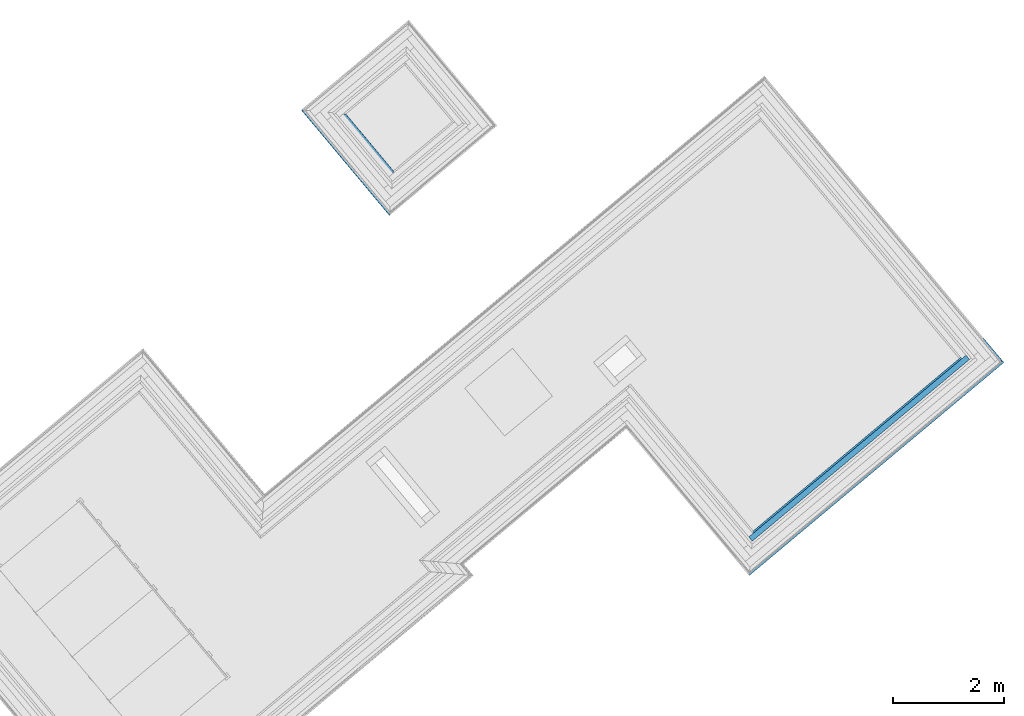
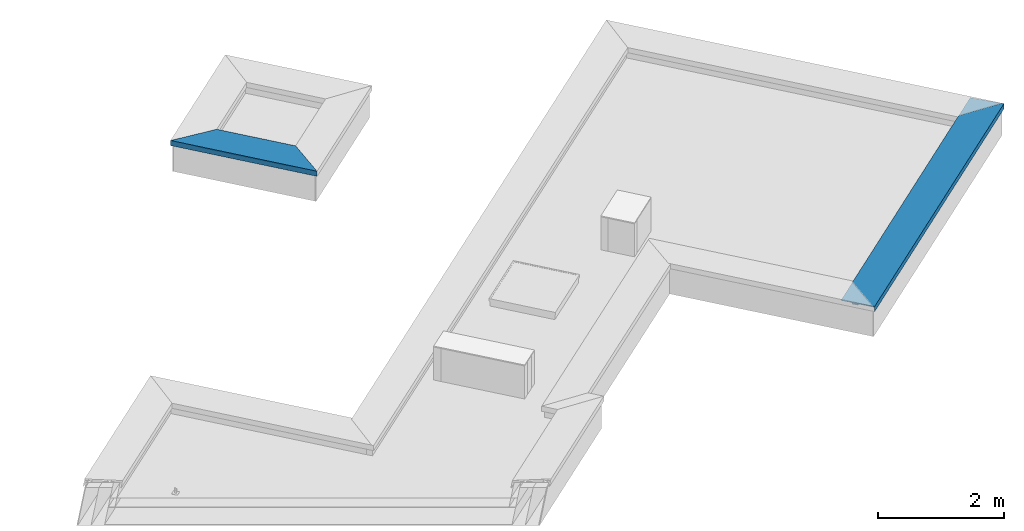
# One storey, part 8 of 13: 5 building element parts, 2 elements without a shape of their own.
"""IFC4 building model written with IfcOpenShell, lengths in metres."""

from ifc_helpers import new_model, entity, si_unit, converted_unit, derived_unit, direction, frame, origin_with_axes, place, context, subcontext, project, spatial, polygons, material, type_object, element, aggregate, save


model = new_model("IFC4")

# Units and contexts
model_context = context("Model", 3, precision=1e-05, world=origin_with_axes(), true_north=direction((0.0, 1.0)))
body_context = subcontext(model_context, "Body", "Model", "MODEL_VIEW")
ifc_project = project(units=[si_unit("LENGTHUNIT", "METRE"), si_unit("AREAUNIT", "SQUARE_METRE"), si_unit("VOLUMEUNIT", "CUBIC_METRE"), converted_unit("PLANEANGLEUNIT", "DEGREE", entity("IfcPlaneAngleMeasure", 0.0174532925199), si_unit("PLANEANGLEUNIT", "RADIAN"), dimensions=[0, 0, 0, 0, 0, 0, 0]), converted_unit("TIMEUNIT", "Year", entity("IfcTimeMeasure", 31556926.0), si_unit("TIMEUNIT", "SECOND"), dimensions=[0, 0, 1, 0, 0, 0, 0]), si_unit("MASSUNIT", "GRAM", prefix="KILO"), si_unit("THERMODYNAMICTEMPERATUREUNIT", "DEGREE_CELSIUS"), si_unit("LUMINOUSINTENSITYUNIT", "LUMEN"), si_unit("ENERGYUNIT", "JOULE", prefix="MEGA"), derived_unit("THERMALCONDUCTANCEUNIT", [(si_unit("POWERUNIT", "WATT"), 1), (si_unit("LENGTHUNIT", "METRE"), -1), (si_unit("THERMODYNAMICTEMPERATUREUNIT", "KELVIN"), -1)]), derived_unit("SPECIFICHEATCAPACITYUNIT", [(si_unit("ENERGYUNIT", "JOULE"), 1), (si_unit("MASSUNIT", "GRAM", prefix="KILO"), -1), (si_unit("THERMODYNAMICTEMPERATUREUNIT", "KELVIN"), -1)]), derived_unit("MASSDENSITYUNIT", [(si_unit("MASSUNIT", "GRAM", prefix="KILO"), 1), (si_unit("VOLUMEUNIT", "CUBIC_METRE"), -1)])], contexts=[model_context])

# Site, building, storey
site_placement = place(None, frame((-0.00153261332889, -0.00661245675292, 0.0), z_axis=(0.0, 0.0, 1.0), x_axis=(1.0, 0.0, 0.0)))
site = spatial("IfcSite", under=ifc_project, at=site_placement, Name="Gelände", CompositionType="ELEMENT")
building_placement = place(site_placement, origin_with_axes())
building = spatial("IfcBuilding", under=site, at=building_placement, Name="Gebäude", CompositionType="ELEMENT")
storey_placement = place(building_placement, frame((0.0, 0.0, 11.84), z_axis=(0.0, 0.0, 1.0), x_axis=(1.0, 0.0, 0.0)))
storey = spatial("IfcBuildingStorey", under=building, at=storey_placement, Name="DA", CompositionType="ELEMENT", Elevation=11.84)

# Wall, building element parts
wall_type_1 = type_object("IfcWallType", Name="Bauteil - Attika 574 x 610", PredefinedType="NOTDEFINED")
wall_1_placement = place(storey_placement, frame((1.33818690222, 24.5040825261, 0.96), z_axis=(0.0, 0.0, 1.0), x_axis=(-0.641161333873, 0.767406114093, 0.0)))
wall_1 = element("IfcWall", 1, at=wall_1_placement, inside=storey, type_object=wall_type_1, Name="Wand-002", PredefinedType="NOTDEFINED")
ifc_material_1 = material(Name="Holzwerkstoff")
building_element_part_1_placement = place(wall_1_placement, origin_with_axes())
building_element_part_1 = element("IfcBuildingElementPart", 2, at=building_element_part_1_placement, material=ifc_material_1, Name="Holzwerkstoff", PredefinedType="NOTDEFINED", context=body_context, shape_type="Tessellation", body=[
    polygons([(1.6709618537, -0.330207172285, 0.573880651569), (1.67116904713, -0.329999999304, 0.567947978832), (1.67095117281, -0.160110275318, 0.573880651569), (1.67088855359, -0.330280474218, 0.575979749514), (1.67060794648, -0.330561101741, 0.584015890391), (1.67053495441, -0.330634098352, 0.586106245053), (1.67047097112, -0.330698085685, 0.587938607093), (0.330719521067, -0.330698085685, 0.587938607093), (0.33065552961, -0.330634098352, 0.586106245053), (0.330582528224, -0.330561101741, 0.584015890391), (0.330301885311, -0.330280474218, 0.575979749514), (0.330228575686, -0.330207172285, 0.573880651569), (0.33002138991, -0.329999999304, 0.567947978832), (0.330217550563, -0.160110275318, 0.573880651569), (1.67087409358, -0.100000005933, 0.575979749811), (1.67057901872, 0.130124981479, 0.584015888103), (1.67050226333, 0.189984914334, 0.586106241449), (1.67043813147, 0.239999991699, 0.587852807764), (1.67043513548, 0.2399969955, 0.587938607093), (2.24040977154, 0.239276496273, 0.608570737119), (-0.239291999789, 0.239276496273, 0.608570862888), (0.33068732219, -0.330698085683, 0.587938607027), (0.330682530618, 0.2399969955, 0.587938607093), (0.330679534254, 0.239999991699, 0.587852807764), (0.330621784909, 0.189985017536, 0.586106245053), (0.330552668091, 0.130124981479, 0.584015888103), (0.330286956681, -0.100000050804, 0.575979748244)], [[[1, 2, 3]], [[2, 1, 4, 5, 6, 7, 8, 9, 10, 11, 12, 13]], [[3, 2, 13, 14]], [[3, 15, 4, 1]], [[15, 16, 5, 4]], [[16, 17, 6, 5]], [[17, 18, 19, 7, 6]], [[7, 20, 21, 22, 8]], [[23, 24, 25, 9, 8]], [[25, 26, 10, 9]], [[26, 27, 11, 10]], [[27, 14, 12, 11]], [[14, 13, 12]], [[15, 3, 14, 27]], [[16, 15, 27, 26]], [[17, 16, 26, 25]], [[18, 17, 25, 24]], [[19, 18, 24, 23, 21, 20]], [[7, 19, 20]], [[21, 23, 8, 22]]], closed=True),
])
ifc_material_2 = material(Name="Stahl")
building_element_part_2_placement = place(wall_1_placement, origin_with_axes())
building_element_part_2 = element("IfcBuildingElementPart", 3, at=building_element_part_2_placement, material=ifc_material_2, Name="Stahl", PredefinedType="NOTDEFINED", context=body_context, shape_type="Tessellation", body=[
    polygons([(2.24127957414, 0.241500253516, 0.51136132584), (2.24128008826, 0.241500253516, 0.519224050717), (2.24128017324, 0.240146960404, 0.519224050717), (2.24127965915, 0.240146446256, 0.51136132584), (2.23936501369, 0.241500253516, 0.511361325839), (2.24071881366, 0.241500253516, 0.510007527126), (-0.239601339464, 0.241500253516, 0.510007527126), (-0.238247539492, 0.241500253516, 0.511361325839), (-0.24016209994, 0.241500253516, 0.51136132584), (-0.240162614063, 0.241500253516, 0.519224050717), (-0.240165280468, 0.241500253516, 0.560000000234), (-0.240165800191, 0.241500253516, 0.567947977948), (-0.240166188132, 0.241500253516, 0.573880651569), (-0.240166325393, 0.241500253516, 0.575979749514), (-0.240166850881, 0.241500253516, 0.584015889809), (-0.24016698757, 0.241500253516, 0.586106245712), (-0.240167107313, 0.241500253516, 0.587937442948), (-0.240168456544, 0.241500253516, 0.608570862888), (-0.240168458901, 0.241500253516, 0.608602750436), (-0.202746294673, 0.241500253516, 0.608602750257), (-0.241515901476, 0.241500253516, 0.610006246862), (2.24263338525, 0.241500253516, 0.610006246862), (2.20386376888, 0.241500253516, 0.608602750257), (2.2412859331, 0.241500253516, 0.608602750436), (2.24128593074, 0.241500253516, 0.608570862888), (2.24128458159, 0.241500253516, 0.587938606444), (2.24128446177, 0.241500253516, 0.586106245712), (2.24128432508, 0.241500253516, 0.584015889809), (2.24128379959, 0.241500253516, 0.575979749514), (2.24128366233, 0.241500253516, 0.573880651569), (2.24128327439, 0.241500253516, 0.567947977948), (2.24128275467, 0.241500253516, 0.560000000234), (2.24128283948, 0.240149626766, 0.560000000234), (2.2393650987, 0.240146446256, 0.511361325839), (2.24128335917, 0.240150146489, 0.567947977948), (2.24128374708, 0.24015053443, 0.573880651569), (2.24128388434, 0.240150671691, 0.575979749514), (2.24128440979, 0.240151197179, 0.584015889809), (2.24128454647, 0.240151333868, 0.586106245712), (2.24128466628, 0.240151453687, 0.587938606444), (2.24128601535, 0.240152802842, 0.608570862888), (2.24128601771, 0.240152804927, 0.608602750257), (2.20386385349, 0.240152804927, 0.608602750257), (-0.202746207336, 0.240152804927, 0.608602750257), (-0.240168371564, 0.240152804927, 0.608602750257), (-0.240168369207, 0.240152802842, 0.608570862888), (-0.240167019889, 0.240151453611, 0.587937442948), (-0.240166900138, 0.240151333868, 0.586106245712), (-0.24016676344, 0.240151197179, 0.584015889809), (-0.240166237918, 0.240150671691, 0.575979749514), (-0.240166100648, 0.24015053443, 0.573880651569), (-0.240165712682, 0.240150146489, 0.567947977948), (-0.240165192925, 0.240149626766, 0.560000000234), (-0.240162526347, 0.240146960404, 0.519224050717), (-0.240162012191, 0.240146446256, 0.51136132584), (-0.238247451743, 0.240146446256, 0.511361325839), (2.23936521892, 0.238231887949, 0.51136132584), (2.24167616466, 0.240542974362, 0.509050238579), (-0.240558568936, 0.240542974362, 0.509050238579), (-0.238247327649, 0.238231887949, 0.51136132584), (-0.202743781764, 0.202730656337, 0.608602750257), (2.20298541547, 0.201849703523, 0.608570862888), (2.20386620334, 0.202730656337, 0.608602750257), (-0.201862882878, 0.201849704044, 0.608570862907), (0.332073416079, -0.332051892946, 0.589243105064), (1.66911724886, -0.3320517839, 0.589243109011), (2.20298306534, 0.239276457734, 0.608570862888), (-0.201865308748, 0.239276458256, 0.608570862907), (2.23250704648, 0.233287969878, 0.518219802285), (-0.231388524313, 0.233287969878, 0.518219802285), (-0.232298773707, 0.232283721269, 0.519224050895), (2.23341743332, 0.232283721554, 0.51922405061), (2.2325071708, 0.231373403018, 0.518219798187), (-0.231388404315, 0.231373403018, 0.518219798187), (0.332070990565, -0.29463062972, 0.589243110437), (0.332073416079, -0.332051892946, 0.587937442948), (0.332073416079, -0.332051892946, 0.586106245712), (0.332073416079, -0.332051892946, 0.584015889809), (0.332073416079, -0.332051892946, 0.575979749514), (0.332073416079, -0.332051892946, 0.573880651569), (0.332073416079, -0.332051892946, 0.567947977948), (0.332073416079, -0.332051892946, 0.560000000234), (0.332073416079, -0.332051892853, 0.519224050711), (0.332073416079, -0.332051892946, 0.51136132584), (0.332073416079, -0.332051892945, 0.509050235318), (0.332073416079, -0.332051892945, 0.499999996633), (0.332073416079, -0.332051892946, 0.498822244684), (0.332073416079, -0.332051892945, 0.491006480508), (0.332073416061, -0.332051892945, 0.489652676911), (1.66911724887, -0.332051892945, 0.489652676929), (1.66911724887, -0.332051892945, 0.491006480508), (1.66911724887, -0.332051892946, 0.498822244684), (1.66911724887, -0.332051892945, 0.499999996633), (1.66911724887, -0.332051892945, 0.509050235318), (1.66911724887, -0.332051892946, 0.51136132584), (1.66911724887, -0.332051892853, 0.519224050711), (1.66911724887, -0.332051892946, 0.560000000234), (1.66911724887, -0.332051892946, 0.567947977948), (1.66911724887, -0.332051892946, 0.573880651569), (1.66911724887, -0.332051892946, 0.575979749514), (1.66911724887, -0.332051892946, 0.584015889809), (1.66911724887, -0.332051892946, 0.586106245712), (1.66911724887, -0.332051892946, 0.587938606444), (1.66911489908, -0.294630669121, 0.589243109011), (1.66911716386, -0.330698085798, 0.587937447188), (0.33207332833, -0.330698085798, 0.587937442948), (1.66911716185, -0.330666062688, 0.587938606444), (0.33207332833, -0.330698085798, 0.586106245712), (0.33207332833, -0.330698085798, 0.584015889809), (0.33207332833, -0.330698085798, 0.575979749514), (0.33207332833, -0.330698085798, 0.573880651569), (0.33207332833, -0.330698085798, 0.567947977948), (0.33207332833, -0.330698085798, 0.560000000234), (0.33207332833, -0.330698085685, 0.519224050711), (0.33207332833, -0.330698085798, 0.51136132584), (0.33207332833, -0.330698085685, 0.509050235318), (0.33207332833, -0.330698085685, 0.499999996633), (0.33207332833, -0.330698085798, 0.498822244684), (0.33207332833, -0.330698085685, 0.49100648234), (0.332073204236, -0.32878353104, 0.491006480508), (0.332073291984, -0.33013733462, 0.489652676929), (0.331116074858, -0.331094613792, 0.488695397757), (1.67007446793, -0.331094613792, 0.488695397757), (1.66911712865, -0.33013733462, 0.489652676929), (1.66911704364, -0.32878353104, 0.491006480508), (1.66911716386, -0.330698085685, 0.49100648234), (1.66911716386, -0.330698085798, 0.498822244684), (1.66911716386, -0.330698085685, 0.499999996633), (1.66911716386, -0.330698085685, 0.509050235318), (1.66911716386, -0.330698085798, 0.51136132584), (1.66911716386, -0.330698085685, 0.519224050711), (1.66911716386, -0.330698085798, 0.560000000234), (1.66911716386, -0.330698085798, 0.567947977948), (1.66911716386, -0.330698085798, 0.573880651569), (1.66911716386, -0.330698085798, 0.575979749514), (1.66911716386, -0.330698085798, 0.584015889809), (1.66911716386, -0.330698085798, 0.586106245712), (0.323813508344, -0.321878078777, 0.497911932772), (1.67737586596, -0.321878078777, 0.497911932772), (1.67047085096, -0.328783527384, 0.491006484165), (0.330719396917, -0.328783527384, 0.491006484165), (0.330719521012, -0.330698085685, 0.491006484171), (1.67047097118, -0.330698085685, 0.491006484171), (1.67828624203, -0.32288233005, 0.498822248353), (0.32290326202, -0.32288233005, 0.498822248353)], [[[1, 2, 3, 4]], [[1, 5, 6, 7, 8, 9, 10, 11, 12, 13, 14, 15, 16, 17, 18, 19, 20, 21, 22, 23, 24, 25, 26, 27, 28, 29, 30, 31, 32, 2]], [[2, 32, 33, 3]], [[34, 4, 3, 33, 35, 36, 37, 38, 39, 40, 41, 42, 43, 44, 45, 46, 47, 48, 49, 50, 51, 52, 53, 54, 55, 56]], [[5, 1, 4, 34]], [[6, 5, 34, 57, 58]], [[6, 58, 59, 7]], [[7, 59, 60, 56, 8]], [[9, 8, 56, 55]], [[10, 9, 55, 54]], [[11, 10, 54, 53]], [[12, 11, 53, 52]], [[13, 12, 52, 51]], [[14, 13, 51, 50]], [[15, 14, 50, 49]], [[16, 15, 49, 48]], [[17, 16, 48, 47]], [[17, 47, 46, 18]], [[19, 18, 46, 45]], [[19, 45, 44, 20]], [[21, 20, 44, 61]], [[62, 63, 22, 21, 61, 64, 65, 66]], [[43, 23, 22, 63]], [[23, 43, 42, 24]], [[25, 24, 42, 41]], [[26, 25, 41, 40]], [[27, 26, 40, 39]], [[28, 27, 39, 38]], [[29, 28, 38, 37]], [[30, 29, 37, 36]], [[31, 30, 36, 35]], [[32, 31, 35, 33]], [[43, 67, 68, 44]], [[69, 34, 56, 70, 71, 72]], [[34, 69, 73, 57]], [[57, 73, 74, 60, 59, 58]], [[56, 60, 74, 70]], [[44, 68, 64, 61]], [[43, 63, 62, 67]], [[68, 75, 65, 64]], [[66, 65, 76, 77, 78, 79, 80, 81, 82, 83, 84, 85, 86, 87, 88, 89, 90, 91, 92, 93, 94, 95, 96, 97, 98, 99, 100, 101, 102, 103]], [[67, 62, 66, 104]], [[105, 106, 75, 68, 67, 104, 107]], [[71, 70, 74]], [[73, 72, 71, 74]], [[69, 72, 73]], [[75, 106, 76, 65]], [[106, 108, 77, 76]], [[108, 109, 78, 77]], [[109, 110, 79, 78]], [[111, 80, 79, 110]], [[111, 112, 81, 80]], [[112, 113, 82, 81]], [[82, 113, 114, 83]], [[115, 84, 83, 114]], [[115, 116, 85, 84]], [[116, 117, 86, 85]], [[118, 87, 86, 117]], [[118, 119, 88, 87]], [[120, 121, 89, 88, 119]], [[122, 123, 90, 89]], [[124, 125, 126, 91, 90]], [[91, 126, 127, 92]], [[127, 128, 93, 92]], [[128, 129, 94, 93]], [[129, 130, 95, 94]], [[95, 130, 131, 96]], [[132, 97, 96, 131]], [[132, 133, 98, 97]], [[133, 134, 99, 98]], [[134, 135, 100, 99]], [[135, 136, 101, 100]], [[136, 137, 102, 101]], [[137, 105, 103, 102]], [[107, 104, 66, 103, 105]], [[126, 119, 118, 117, 116, 115, 114, 113, 112, 111, 110, 109, 108, 106, 105, 137, 136, 135, 134, 133, 132, 131, 130, 129, 128, 127]], [[138, 139, 140, 125, 124, 123, 122, 121, 120, 141]], [[121, 122, 89]], [[141, 120, 119, 142]], [[124, 90, 123]], [[125, 140, 143, 126]], [[119, 126, 143, 144, 145, 142]], [[139, 138, 145, 144]], [[140, 139, 144, 143]], [[141, 142, 145, 138]]], closed=True),
])
aggregate(wall_1, [building_element_part_1, building_element_part_2])

wall_type_2 = type_object("IfcWallType", Name="Individuelles Profil 574 x 610", PredefinedType="NOTDEFINED")
wall_2_placement = place(storey_placement, frame((12.0618093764, 21.5422970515, 0.0), z_axis=(0.0, 0.0, 1.0), x_axis=(-0.766948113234, -0.641709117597, 0.0)))
wall_2 = element("IfcWall", 4, at=wall_2_placement, inside=storey, type_object=wall_type_2, Name="Wand-004", PredefinedType="NOTDEFINED")
ifc_material_3 = material(Name="EPS 1")
building_element_part_3_placement = place(wall_2_placement, origin_with_axes())
building_element_part_3 = element("IfcBuildingElementPart", 5, at=building_element_part_3_placement, material=ifc_material_3, Name="EPS 1", PredefinedType="NOTDEFINED", context=body_context, shape_type="Tessellation", body=[
    polygons([(0.199869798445, -0.200000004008, 0.519224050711), (0.199869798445, -0.200000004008, 0.560000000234), (5.31373490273, -0.200000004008, 0.560000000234), (5.31373490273, -0.200000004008, 0.519224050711), (5.31373490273, -0.200000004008, 0.51136132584), (5.31373490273, -0.200000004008, 0.509050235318), (5.31373490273, -0.200000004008, 0.499999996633), (5.31373490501, -0.200000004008, 0.498822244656), (5.31373490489, -0.200000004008, 0.491006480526), (5.31373490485, -0.200000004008, 0.488695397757), (5.31373490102, -0.200000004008, 0.235000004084), (0.199869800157, -0.200000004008, 0.235000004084), (0.19986979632, -0.200000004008, 0.488695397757), (0.199869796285, -0.200000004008, 0.491006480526), (0.199869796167, -0.200000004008, 0.498822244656), (0.199869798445, -0.20000000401, 0.499999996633), (0.199869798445, -0.200000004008, 0.509050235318), (0.199869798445, -0.200000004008, 0.51136132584), (0.199804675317, -0.30000000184, 0.560000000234), (0.199804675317, -0.30000000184, 0.519224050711), (5.31373490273, -0.30000000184, 0.560000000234), (5.31373490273, -0.30000000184, 0.519224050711), (5.31373490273, -0.30000000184, 0.51136132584), (5.31373490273, -0.30000000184, 0.509050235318), (5.31373490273, -0.30000000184, 0.499999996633), (5.31373490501, -0.30000000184, 0.498822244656), (5.31373490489, -0.30000000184, 0.491006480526), (5.31373490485, -0.30000000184, 0.488695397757), (5.31373490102, -0.30000000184, 0.235000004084), (0.199804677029, -0.30000000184, 0.235000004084), (0.199804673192, -0.30000000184, 0.488695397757), (0.199804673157, -0.30000000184, 0.491006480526), (0.199804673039, -0.30000000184, 0.498822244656), (0.199804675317, -0.300000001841, 0.499999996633), (0.199804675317, -0.30000000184, 0.509050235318), (0.199804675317, -0.30000000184, 0.51136132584)], [[[1, 2, 3, 4, 5, 6, 7, 8, 9, 10, 11, 12, 13, 14, 15, 16, 17, 18]], [[19, 2, 1, 20]], [[2, 19, 21, 3]], [[4, 3, 21, 22]], [[4, 22, 23, 5]], [[5, 23, 24, 6]], [[6, 24, 25, 7]], [[7, 25, 26, 8]], [[8, 26, 27, 9]], [[9, 27, 28, 10]], [[10, 28, 29, 11]], [[30, 12, 11, 29]], [[31, 13, 12, 30]], [[32, 14, 13, 31]], [[33, 15, 14, 32]], [[34, 16, 15, 33]], [[35, 17, 16, 34]], [[36, 18, 17, 35]], [[20, 1, 18, 36]], [[19, 20, 36, 35, 34, 33, 32, 31, 30, 29, 28, 27, 26, 25, 24, 23, 22, 21]]], closed=True),
])
building_element_part_4_placement = place(wall_2_placement, origin_with_axes())
building_element_part_4 = element("IfcBuildingElementPart", 6, at=building_element_part_4_placement, material=ifc_material_1, Name="Holzwerkstoff", PredefinedType="NOTDEFINED", context=body_context, shape_type="Tessellation", body=[
    polygons([(5.75373488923, 0.239999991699, 0.587852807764), (5.75373193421, 0.239997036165, 0.587937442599), (5.75373193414, -0.330698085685, 0.587937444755), (5.75373488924, -0.330695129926, 0.587852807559), (-0.239843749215, 0.239999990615, 0.587852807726), (-0.239840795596, 0.239997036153, 0.587937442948), (-0.239120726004, 0.239276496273, 0.608570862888), (5.75301139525, 0.239276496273, 0.608570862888), (5.70371980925, -0.33063413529, 0.586106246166), (-0.240212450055, -0.330698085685, 0.587937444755), (-0.240215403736, -0.330695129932, 0.587852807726), (-0.190200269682, -0.330634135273, 0.586106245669), (-0.130340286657, -0.330561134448, 0.584015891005), (0.0997849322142, -0.330280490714, 0.575979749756), (0.159895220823, -0.330207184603, 0.573880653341), (0.329785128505, -0.329999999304, 0.567947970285), (5.18373494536, -0.329999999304, 0.567947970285), (5.35362467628, -0.330207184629, 0.573880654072), (5.41373490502, -0.330280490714, 0.575979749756), (5.64385988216, -0.33056113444, 0.584015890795), (5.70371980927, 0.189984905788, 0.586106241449), (-0.189861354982, 0.189984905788, 0.586106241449), (-0.130040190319, 0.130124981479, 0.584015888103), (0.0999348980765, -0.0999999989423, 0.575979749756), (0.160005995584, -0.160110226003, 0.573880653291), (5.35362467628, -0.160110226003, 0.573880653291), (5.41373490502, -0.0999999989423, 0.575979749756), (5.64385988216, 0.130125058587, 0.584015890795)], [[[1, 2, 3, 4]], [[2, 1, 5, 6, 7, 8]], [[2, 8, 3]], [[9, 4, 3, 10, 11, 12, 13, 14, 15, 16, 17, 18, 19, 20]], [[21, 1, 4, 9]], [[1, 21, 22, 5]], [[6, 5, 11, 10]], [[7, 6, 10]], [[3, 8, 7, 10]], [[5, 22, 12, 11]], [[13, 12, 22, 23]], [[14, 13, 23, 24]], [[25, 15, 14, 24]], [[25, 16, 15]], [[26, 17, 16, 25]], [[18, 17, 26]], [[19, 18, 26, 27]], [[20, 19, 27, 28]], [[28, 21, 9, 20]], [[21, 28, 23, 22]], [[27, 24, 23, 28]], [[27, 26, 25, 24]]], closed=True),
])
building_element_part_5_placement = place(wall_2_placement, origin_with_axes())
building_element_part_5 = element("IfcBuildingElementPart", 7, at=building_element_part_5_placement, material=ifc_material_2, Name="Stahl", PredefinedType="NOTDEFINED", context=body_context, shape_type="Tessellation", body=[
    polygons([(5.75523515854, 0.238231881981, 0.51136132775), (5.75523515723, 0.240146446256, 0.51136132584), (5.75388135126, 0.240146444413, 0.51136132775), (5.75388135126, 0.238231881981, 0.51136132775), (5.75523515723, 0.239585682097, 0.510007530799), (5.75523515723, 0.241500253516, 0.510007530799), (5.75523515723, 0.241500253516, 0.610006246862), (5.75523515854, 0.202730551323, 0.608602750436), (5.75523515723, 0.240152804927, 0.608602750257), (5.75388771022, 0.240152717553, 0.608602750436), (-0.239996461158, 0.240152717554, 0.608602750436), (-0.241343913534, 0.240152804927, 0.608602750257), (-0.241343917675, 0.240146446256, 0.51136132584), (-0.239990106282, 0.240146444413, 0.51136132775), (5.74601862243, 0.232283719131, 0.519224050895), (5.74702287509, 0.231373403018, 0.518219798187), (5.7542778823, 0.240542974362, 0.509050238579), (-0.233137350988, 0.231373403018, 0.518219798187), (-0.239991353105, 0.238231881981, 0.51136132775), (-0.24134516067, 0.238231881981, 0.51136132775), (-0.241344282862, 0.239585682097, 0.510007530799), (-0.240386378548, 0.240542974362, 0.509050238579), (-0.241343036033, 0.241500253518, 0.510007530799), (-0.241343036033, 0.241500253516, 0.610006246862), (5.75388771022, 0.202730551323, 0.608602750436), (-0.241368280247, 0.202730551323, 0.608602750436), (-0.240020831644, 0.202730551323, 0.608602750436), (-0.239145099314, 0.201849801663, 0.608570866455), (0.29441424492, -0.332051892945, 0.58924311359), (5.21910448, -0.332051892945, 0.58924311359), (5.75301139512, 0.201849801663, 0.608570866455), (5.75301139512, 0.239276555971, 0.608570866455), (-0.239120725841, 0.239276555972, 0.608570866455), (-0.239205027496, 0.23936090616, 0.608573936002), (-0.232132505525, 0.232283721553, 0.51922405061), (0.330482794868, -0.330698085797, 0.587937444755), (0.330481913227, -0.332051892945, 0.587937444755), (5.18359756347, -0.332051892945, 0.489652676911), (5.18495136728, -0.332051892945, 0.491006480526), (5.18303681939, -0.332051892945, 0.491006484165), (5.18303681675, -0.332051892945, 0.498822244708), (5.18303681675, -0.332051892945, 0.499999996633), (5.18303681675, -0.332051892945, 0.509050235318), (5.18303681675, -0.332051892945, 0.51136132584), (5.18303681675, -0.332051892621, 0.519224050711), (5.18303681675, -0.332051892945, 0.560000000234), (5.18303681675, -0.332051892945, 0.567947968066), (5.18303681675, -0.332051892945, 0.573880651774), (5.18303681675, -0.332051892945, 0.575979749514), (5.18303681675, -0.332051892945, 0.584015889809), (5.18303681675, -0.332051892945, 0.586106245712), (5.18303681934, -0.332051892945, 0.587937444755), (0.330481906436, -0.332051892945, 0.586106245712), (0.330481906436, -0.332051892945, 0.584015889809), (0.330481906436, -0.332051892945, 0.575979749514), (0.330481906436, -0.332051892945, 0.573880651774), (0.330481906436, -0.332051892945, 0.567947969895), (0.330481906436, -0.332051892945, 0.55999999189), (0.330481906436, -0.332051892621, 0.519224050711), (0.330481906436, -0.332051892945, 0.51136132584), (0.330481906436, -0.332051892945, 0.509050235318), (0.330481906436, -0.332051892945, 0.499999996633), (0.330481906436, -0.332051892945, 0.498822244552), (0.330481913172, -0.332051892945, 0.491006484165), (0.328567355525, -0.332051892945, 0.491006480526), (0.329921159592, -0.332051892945, 0.489652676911), (5.18303681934, -0.330698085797, 0.587937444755), (0.330482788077, -0.330698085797, 0.586106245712), (5.18495136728, -0.330698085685, 0.491006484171), (5.18264028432, -0.331094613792, 0.488695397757), (5.18495136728, -0.328783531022, 0.491006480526), (5.18303681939, -0.330698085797, 0.491006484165), (5.18303681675, -0.330698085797, 0.498822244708), (5.18303681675, -0.330698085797, 0.499999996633), (5.18303681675, -0.330698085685, 0.509050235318), (5.18303681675, -0.330698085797, 0.51136132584), (5.18303681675, -0.330698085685, 0.519224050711), (5.18303681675, -0.330698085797, 0.560000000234), (5.18303681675, -0.330698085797, 0.567947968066), (5.18303681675, -0.330698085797, 0.573880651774), (5.18303681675, -0.330698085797, 0.575979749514), (5.18303681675, -0.330698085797, 0.584015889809), (5.18303681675, -0.330698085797, 0.586106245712), (0.330482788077, -0.330698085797, 0.584015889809), (0.330482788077, -0.330698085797, 0.575979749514), (0.330482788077, -0.330698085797, 0.573880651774), (0.330482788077, -0.330698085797, 0.567947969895), (0.330482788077, -0.330698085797, 0.55999999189), (0.330482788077, -0.330698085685, 0.519224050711), (0.330482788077, -0.330698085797, 0.51136132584), (0.330482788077, -0.330698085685, 0.509050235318), (0.330482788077, -0.330698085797, 0.499999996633), (0.330482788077, -0.330698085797, 0.498822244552), (0.330482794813, -0.330698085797, 0.491006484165), (0.328568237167, -0.330698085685, 0.491006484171), (0.33087905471, -0.331094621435, 0.4886954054), (0.328569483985, -0.328783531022, 0.491006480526), (5.19185682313, -0.321878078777, 0.497911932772), (0.321668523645, -0.321878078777, 0.497911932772), (5.19185682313, -0.323792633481, 0.497911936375), (5.19085257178, -0.32288233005, 0.498822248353), (0.322672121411, -0.32288233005, 0.498822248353), (0.321667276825, -0.323792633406, 0.497911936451)], [[[1, 2, 3, 4]], [[5, 6, 7, 8, 9, 2, 1]], [[2, 9, 10, 11, 12, 13, 14, 3]], [[4, 3, 15, 16]], [[17, 5, 1, 4, 16, 18, 19, 20, 21, 22]], [[6, 5, 17]], [[7, 6, 23, 24]], [[25, 8, 7, 24, 26, 27, 28, 29, 30, 31]], [[10, 9, 8, 25]], [[10, 32, 33, 34, 11]], [[12, 11, 27, 26]], [[23, 21, 20, 13, 12, 26, 24]], [[14, 13, 20, 19]], [[15, 3, 14, 35]], [[16, 15, 35, 18]], [[35, 14, 19, 18]], [[22, 21, 23]], [[6, 17, 22, 23]], [[34, 33, 28, 27, 11]], [[36, 37, 29, 28, 33]], [[38, 39, 40, 41, 42, 43, 44, 45, 46, 47, 48, 49, 50, 51, 52, 30, 29, 37, 53, 54, 55, 56, 57, 58, 59, 60, 61, 62, 63, 64, 65, 66]], [[32, 31, 30, 52, 67]], [[32, 10, 25, 31]], [[32, 67, 36, 33]], [[53, 37, 36, 68]], [[69, 39, 38, 70, 71]], [[39, 69, 72, 40]], [[41, 40, 72, 73]], [[42, 41, 73, 74]], [[43, 42, 74, 75]], [[44, 43, 75, 76]], [[45, 44, 76, 77]], [[46, 45, 77, 78]], [[47, 46, 78, 79]], [[48, 47, 79, 80]], [[49, 48, 80, 81]], [[50, 49, 81, 82]], [[51, 50, 82, 83]], [[52, 51, 83, 67]], [[68, 84, 54, 53]], [[84, 85, 55, 54]], [[85, 86, 56, 55]], [[86, 87, 57, 56]], [[87, 88, 58, 57]], [[58, 88, 89, 59]], [[90, 60, 59, 89]], [[91, 61, 60, 90]], [[92, 62, 61, 91]], [[93, 63, 62, 92]], [[94, 64, 63, 93]], [[64, 94, 95, 65]], [[96, 66, 65, 95, 97]], [[70, 38, 66, 96]], [[73, 72, 94, 93, 92, 91, 90, 89, 88, 87, 86, 85, 84, 68, 36, 67, 83, 82, 81, 80, 79, 78, 77, 76, 75, 74]], [[98, 71, 70, 96, 97, 99]], [[69, 71, 98, 100]], [[69, 100, 101, 102, 103, 95, 94, 72]], [[99, 97, 95, 103]], [[101, 98, 99, 102]], [[100, 98, 101]], [[99, 103, 102]]], closed=True),
])
aggregate(wall_2, [building_element_part_3, building_element_part_4, building_element_part_5])

save(model, "model.ifc")
